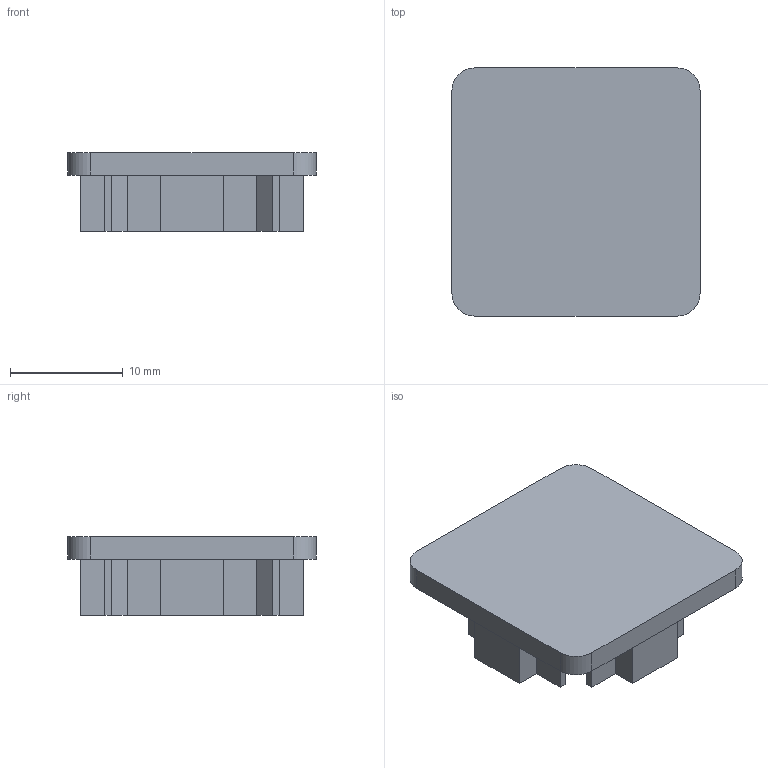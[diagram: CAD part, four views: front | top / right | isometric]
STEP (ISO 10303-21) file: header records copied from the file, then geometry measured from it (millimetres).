
FILE_DESCRIPTION(/* description */ (''),/* implementation_level */ '2;1');
FILE_NAME(/* name */ 'tappi_tslot.stp',/* time_stamp */ '2025-09-22T20:10:33+02:00',/* author */ ('R5800u'),/* organization */ (''),/* preprocessor_version */ 'ST-DEVELOPER v20',/* originating_system */ 'Autodesk Inventor 2025',/* authorisation */ '');
FILE_SCHEMA (('AUTOMOTIVE_DESIGN { 1 0 10303 214 3 1 1 }'));
Length unit declared in the file: millimetre
Products named in the file (1): tappi_tslot
Bounding box: 22 x 22 x 7 mm (x, y, z)
Volume: 1847.6 mm3; surface area: 1749.7 mm2
Topology: 1 solids, 1 shells, 54 faces, 144 edges, 96 vertices
Faces by surface type: plane 50, cylinder 4
Entity records: 1699 total; most frequent: CARTESIAN_POINT 295, ORIENTED_EDGE 288, DIRECTION 262, EDGE_CURVE 144, LINE 136, VECTOR 136, VERTEX_POINT 96, AXIS2_PLACEMENT_3D 63
